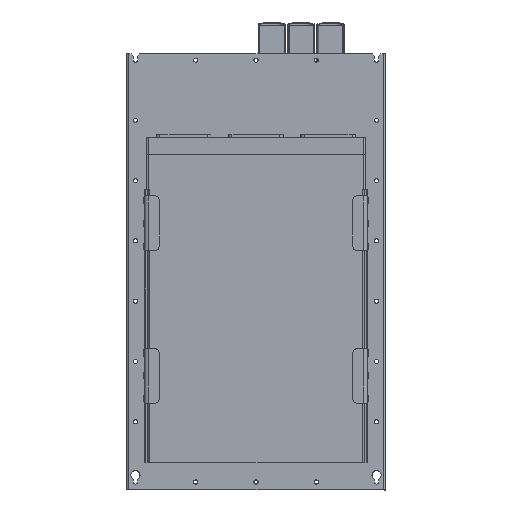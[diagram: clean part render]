
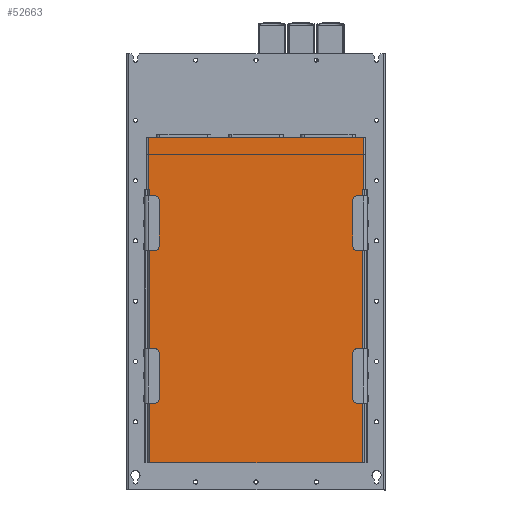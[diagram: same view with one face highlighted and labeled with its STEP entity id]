
A CAD part, front view. The second image highlights one B-rep face of the part: STEP entity #52663.
In plain terms, the highlighted planar face has unit normal (0, -1, 0).
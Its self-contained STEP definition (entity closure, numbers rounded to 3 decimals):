
#1605 = EDGE_CURVE ( 'NONE', #4654, #65017, #81690, .T. ) ;
#2849 = EDGE_CURVE ( 'NONE', #15764, #74136, #85267, .T. ) ;
#4005 = DIRECTION ( 'NONE',  ( 0., 0., -1. ) ) ;
#4654 = VERTEX_POINT ( 'NONE', #57606 ) ;
#5571 = DIRECTION ( 'NONE',  ( 1., 0., 0. ) ) ;
#6935 = EDGE_CURVE ( 'NONE', #37525, #53515, #34975, .T. ) ;
#7094 = CARTESIAN_POINT ( 'NONE',  ( -239.5, -125., 115. ) ) ;
#7370 = VECTOR ( 'NONE', #94159, 1000. ) ;
#7581 = ORIENTED_EDGE ( 'NONE', *, *, #85082, .T. ) ;
#11421 = LINE ( 'NONE', #27408, #47449 ) ;
#12240 = CARTESIAN_POINT ( 'NONE',  ( 233., -125., 0. ) ) ;
#12431 = EDGE_LOOP ( 'NONE', ( #47249, #65786, #75590, #7581, #89096, #74885, #43823, #78244 ) ) ;
#12434 = DIRECTION ( 'NONE',  ( 0., 0., 1. ) ) ;
#15764 = VERTEX_POINT ( 'NONE', #19829 ) ;
#18503 = CARTESIAN_POINT ( 'NONE',  ( -236., -125., 115. ) ) ;
#19829 = CARTESIAN_POINT ( 'NONE',  ( -233., -125., -598. ) ) ;
#24408 = CARTESIAN_POINT ( 'NONE',  ( 233., -125., -598. ) ) ;
#24502 = VECTOR ( 'NONE', #59708, 1000. ) ;
#26026 = LINE ( 'NONE', #56155, #7370 ) ;
#27408 = CARTESIAN_POINT ( 'NONE',  ( -233., -125., 0. ) ) ;
#27967 = CARTESIAN_POINT ( 'NONE',  ( -233., -125., 0. ) ) ;
#31444 = EDGE_CURVE ( 'NONE', #65017, #15764, #11421, .T. ) ;
#32610 = LINE ( 'NONE', #47153, #90702 ) ;
#34975 = LINE ( 'NONE', #65545, #48227 ) ;
#35518 = DIRECTION ( 'NONE',  ( 0., 1., 0. ) ) ;
#37525 = VERTEX_POINT ( 'NONE', #75284 ) ;
#39992 = VECTOR ( 'NONE', #78148, 1000. ) ;
#43636 = CARTESIAN_POINT ( 'NONE',  ( -236., -125., 0. ) ) ;
#43823 = ORIENTED_EDGE ( 'NONE', *, *, #75183, .T. ) ;
#47153 = CARTESIAN_POINT ( 'NONE',  ( -236., -125., 0. ) ) ;
#47249 = ORIENTED_EDGE ( 'NONE', *, *, #31444, .T. ) ;
#47449 = VECTOR ( 'NONE', #66983, 1000. ) ;
#48227 = VECTOR ( 'NONE', #12434, 1000. ) ;
#52663 = ADVANCED_FACE ( 'NONE', ( #54772 ), #96115, .F. ) ;
#53515 = VERTEX_POINT ( 'NONE', #89035 ) ;
#54056 = VECTOR ( 'NONE', #65072, 1000. ) ;
#54065 = VECTOR ( 'NONE', #5571, 1000. ) ;
#54279 = CARTESIAN_POINT ( 'NONE',  ( -236., -125., 115. ) ) ;
#54772 = FACE_OUTER_BOUND ( 'NONE', #12431, .T. ) ;
#56155 = CARTESIAN_POINT ( 'NONE',  ( 233., -125., -800. ) ) ;
#57606 = CARTESIAN_POINT ( 'NONE',  ( -236., -125., 0. ) ) ;
#59708 = DIRECTION ( 'NONE',  ( -1., 0., 0. ) ) ;
#64127 = LINE ( 'NONE', #18503, #39992 ) ;
#65017 = VERTEX_POINT ( 'NONE', #27967 ) ;
#65072 = DIRECTION ( 'NONE',  ( 1., 0., 0. ) ) ;
#65545 = CARTESIAN_POINT ( 'NONE',  ( 236., -125., 0. ) ) ;
#65786 = ORIENTED_EDGE ( 'NONE', *, *, #2849, .T. ) ;
#66983 = DIRECTION ( 'NONE',  ( 0., 0., -1. ) ) ;
#72093 = CARTESIAN_POINT ( 'NONE',  ( 224., -125., -800. ) ) ;
#74136 = VERTEX_POINT ( 'NONE', #24408 ) ;
#74885 = ORIENTED_EDGE ( 'NONE', *, *, #91971, .T. ) ;
#75183 = EDGE_CURVE ( 'NONE', #91695, #4654, #64127, .T. ) ;
#75284 = CARTESIAN_POINT ( 'NONE',  ( 236., -125., 0. ) ) ;
#75590 = ORIENTED_EDGE ( 'NONE', *, *, #83976, .T. ) ;
#76758 = CARTESIAN_POINT ( 'NONE',  ( -244., -125., -598. ) ) ;
#78148 = DIRECTION ( 'NONE',  ( 0., 0., -1. ) ) ;
#78244 = ORIENTED_EDGE ( 'NONE', *, *, #1605, .T. ) ;
#79156 = DIRECTION ( 'NONE',  ( 1., 0., 0. ) ) ;
#80061 = AXIS2_PLACEMENT_3D ( 'NONE', #72093, #35518, #4005 ) ;
#81690 = LINE ( 'NONE', #43636, #54065 ) ;
#82586 = VERTEX_POINT ( 'NONE', #12240 ) ;
#83976 = EDGE_CURVE ( 'NONE', #74136, #82586, #26026, .T. ) ;
#85082 = EDGE_CURVE ( 'NONE', #82586, #37525, #32610, .T. ) ;
#85267 = LINE ( 'NONE', #76758, #54056 ) ;
#89035 = CARTESIAN_POINT ( 'NONE',  ( 236., -125., 115. ) ) ;
#89096 = ORIENTED_EDGE ( 'NONE', *, *, #6935, .T. ) ;
#90211 = LINE ( 'NONE', #7094, #24502 ) ;
#90702 = VECTOR ( 'NONE', #79156, 1000. ) ;
#91695 = VERTEX_POINT ( 'NONE', #54279 ) ;
#91971 = EDGE_CURVE ( 'NONE', #53515, #91695, #90211, .T. ) ;
#94159 = DIRECTION ( 'NONE',  ( 0., 0., 1. ) ) ;
#96115 = PLANE ( 'NONE',  #80061 ) ;
